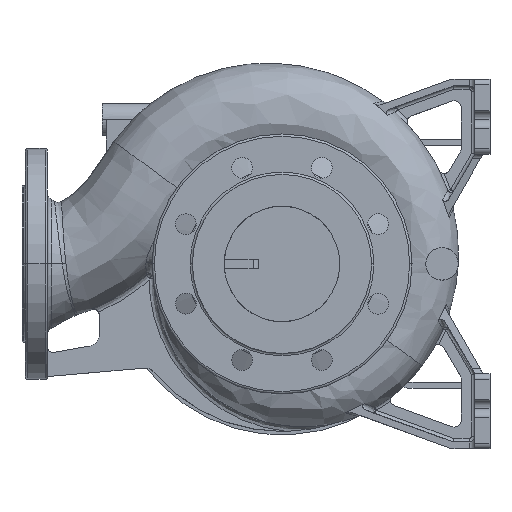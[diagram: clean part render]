
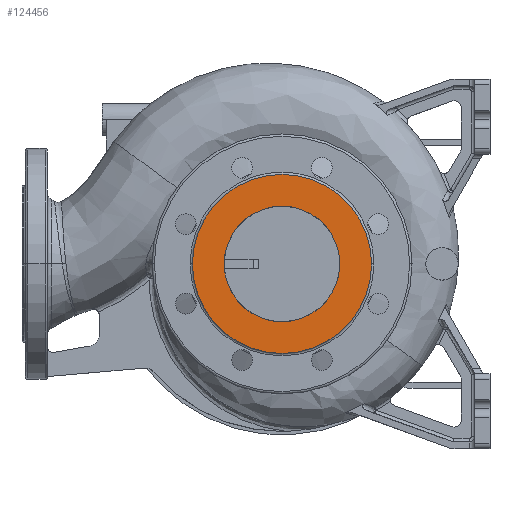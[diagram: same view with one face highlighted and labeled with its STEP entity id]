
A CAD part, front view. The second image highlights one B-rep face of the part: STEP entity #124456.
In plain terms, the highlighted planar face has unit normal (0, -1, 0).
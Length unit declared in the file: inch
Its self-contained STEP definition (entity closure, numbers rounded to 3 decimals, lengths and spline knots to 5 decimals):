
#605 = DIRECTION ( 'NONE',  ( -1., 0., 0. ) ) ;
#701 = EDGE_LOOP ( 'NONE', ( #51431, #145203 ) ) ;
#2291 = DIRECTION ( 'NONE',  ( 0., -1., 0. ) ) ;
#6406 = CARTESIAN_POINT ( 'NONE',  ( 0., -10.51181, 0. ) ) ;
#7560 = AXIS2_PLACEMENT_3D ( 'NONE', #144436, #2291, #143676 ) ;
#10702 = AXIS2_PLACEMENT_3D ( 'NONE', #96766, #119820, #97526 ) ;
#15299 = FACE_BOUND ( 'NONE', #47285, .T. ) ;
#16053 = ORIENTED_EDGE ( 'NONE', *, *, #141355, .F. ) ;
#22319 = VERTEX_POINT ( 'NONE', #104751 ) ;
#26518 = DIRECTION ( 'NONE',  ( -1., 0., 0. ) ) ;
#26780 = CIRCLE ( 'NONE', #102841, 3.05118 ) ;
#36755 = CIRCLE ( 'NONE', #117816, 1.9685 ) ;
#47285 = EDGE_LOOP ( 'NONE', ( #16053, #70506 ) ) ;
#51431 = ORIENTED_EDGE ( 'NONE', *, *, #135557, .F. ) ;
#51750 = DIRECTION ( 'NONE',  ( 0., -1., 0. ) ) ;
#55646 = CARTESIAN_POINT ( 'NONE',  ( 1.9685, -10.51181, 0. ) ) ;
#56363 = EDGE_CURVE ( 'NONE', #22319, #140168, #61500, .T. ) ;
#61500 = CIRCLE ( 'NONE', #7560, 3.05118 ) ;
#66460 = CIRCLE ( 'NONE', #117994, 1.9685 ) ;
#70382 = DIRECTION ( 'NONE',  ( 0., 1., 0. ) ) ;
#70506 = ORIENTED_EDGE ( 'NONE', *, *, #137742, .T. ) ;
#77823 = CARTESIAN_POINT ( 'NONE',  ( -1.9685, -10.51181, 0. ) ) ;
#82810 = DIRECTION ( 'NONE',  ( 0., 1., 0. ) ) ;
#84906 = VERTEX_POINT ( 'NONE', #77823 ) ;
#85187 = CARTESIAN_POINT ( 'NONE',  ( 3.05118, -10.51181, 0. ) ) ;
#96766 = CARTESIAN_POINT ( 'NONE',  ( 0., -10.51181, 0. ) ) ;
#97526 = DIRECTION ( 'NONE',  ( 1., 0., 0. ) ) ;
#98639 = DIRECTION ( 'NONE',  ( -1., 0., 0. ) ) ;
#102841 = AXIS2_PLACEMENT_3D ( 'NONE', #106626, #82810, #605 ) ;
#104751 = CARTESIAN_POINT ( 'NONE',  ( -3.05118, -10.51181, 0. ) ) ;
#106626 = CARTESIAN_POINT ( 'NONE',  ( 0., -10.51181, 0. ) ) ;
#117816 = AXIS2_PLACEMENT_3D ( 'NONE', #142565, #70382, #26518 ) ;
#117994 = AXIS2_PLACEMENT_3D ( 'NONE', #6406, #51750, #98639 ) ;
#119820 = DIRECTION ( 'NONE',  ( 0., 1., 0. ) ) ;
#124456 = ADVANCED_FACE ( 'NONE', ( #130605, #15299 ), #142134, .F. ) ;
#130605 = FACE_OUTER_BOUND ( 'NONE', #701, .T. ) ;
#135557 = EDGE_CURVE ( 'NONE', #22319, #140168, #26780, .T. ) ;
#137742 = EDGE_CURVE ( 'NONE', #84906, #147112, #36755, .T. ) ;
#140168 = VERTEX_POINT ( 'NONE', #85187 ) ;
#141355 = EDGE_CURVE ( 'NONE', #84906, #147112, #66460, .T. ) ;
#142134 = PLANE ( 'NONE',  #10702 ) ;
#142565 = CARTESIAN_POINT ( 'NONE',  ( 0., -10.51181, 0. ) ) ;
#143676 = DIRECTION ( 'NONE',  ( -1., 0., 0. ) ) ;
#144436 = CARTESIAN_POINT ( 'NONE',  ( 0., -10.51181, 0. ) ) ;
#145203 = ORIENTED_EDGE ( 'NONE', *, *, #56363, .T. ) ;
#147112 = VERTEX_POINT ( 'NONE', #55646 ) ;
